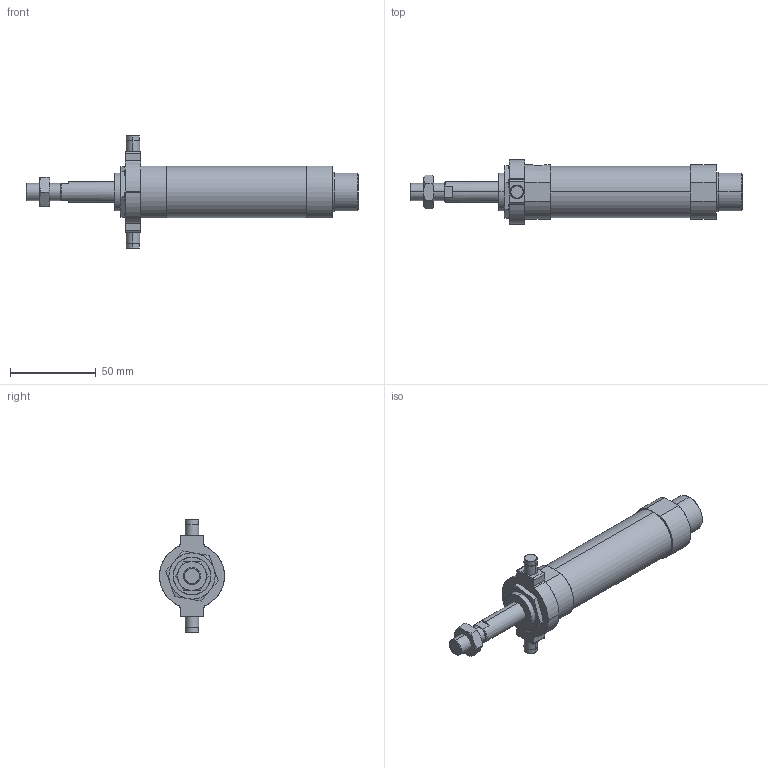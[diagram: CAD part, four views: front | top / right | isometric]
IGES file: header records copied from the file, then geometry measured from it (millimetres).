
Start section: SolidWorks IGES file using analytic representation for surfaces
Global section: file name: C:\Users\Toshiba\Desktop\J#0-25-25-T.IGS; native system: SolidWorks 2014; preprocessor: SolidWorks 2014; author: Toshiba; date: 160308.143507; units: millimetre
Bounding box: 194 x 38 x 66 mm (x, y, z)
Surface area: 22992.8 mm2 (no closed solid volume)
Topology: 0 solids, 0 shells, 132 faces, 2166 edges, 2164 vertices
Faces by surface type: bspline 71, revolution 61
